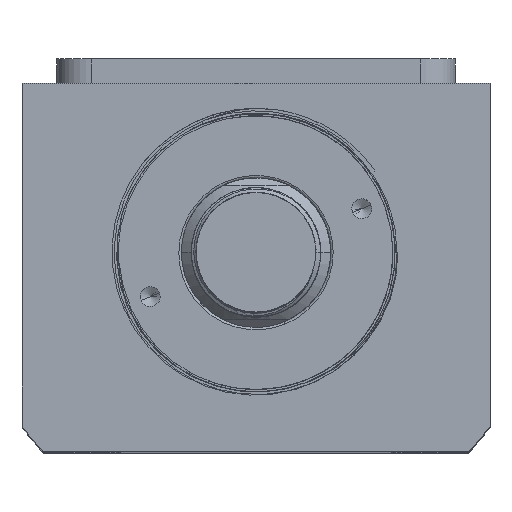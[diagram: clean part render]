
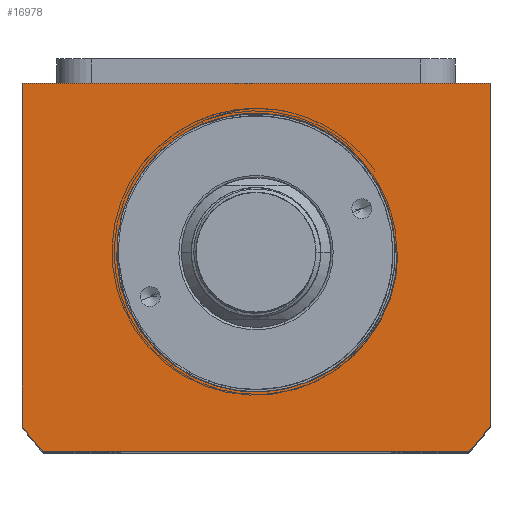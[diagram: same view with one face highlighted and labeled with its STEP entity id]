
A CAD part, top view. The second image highlights one B-rep face of the part: STEP entity #16978.
In plain terms, the highlighted planar face has unit normal (0, 0, 1).
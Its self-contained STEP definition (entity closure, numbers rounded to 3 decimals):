
#27 = CARTESIAN_POINT ( 'NONE',  ( 10.89, -25.816, 77.5 ) ) ;
#166 = CARTESIAN_POINT ( 'NONE',  ( 27.555, -6.99, 77.5 ) ) ;
#598 = VERTEX_POINT ( 'NONE', #17794 ) ;
#808 = AXIS2_PLACEMENT_3D ( 'NONE', #5891, #15069, #10422 ) ;
#820 = EDGE_CURVE ( 'NONE', #5608, #13939, #15677, .T. ) ;
#924 = ORIENTED_EDGE ( 'NONE', *, *, #4125, .T. ) ;
#1374 = ORIENTED_EDGE ( 'NONE', *, *, #2809, .T. ) ;
#1446 = CARTESIAN_POINT ( 'NONE',  ( 22.571, -17.007, 77.5 ) ) ;
#1514 = CARTESIAN_POINT ( 'NONE',  ( 28.233, -3.538, 77.5 ) ) ;
#1668 = CARTESIAN_POINT ( 'NONE',  ( 28.495, 0., 77.5 ) ) ;
#1721 = CARTESIAN_POINT ( 'NONE',  ( 19.714, -20.129, 77.5 ) ) ;
#2193 = VERTEX_POINT ( 'NONE', #4625 ) ;
#2482 = DIRECTION ( 'NONE',  ( 1., 0., 0. ) ) ;
#2809 = EDGE_CURVE ( 'NONE', #5593, #13815, #13224, .T. ) ;
#2919 = DIRECTION ( 'NONE',  ( 0., 0., 1. ) ) ;
#2965 = CARTESIAN_POINT ( 'NONE',  ( 12.831, -24.945, 77.5 ) ) ;
#3112 = CARTESIAN_POINT ( 'NONE',  ( 0., 0., 77.5 ) ) ;
#3664 = DIRECTION ( 'NONE',  ( 1., 0., 0. ) ) ;
#3711 = ORIENTED_EDGE ( 'NONE', *, *, #12305, .T. ) ;
#3728 = VECTOR ( 'NONE', #19163, 1000. ) ;
#3978 = ORIENTED_EDGE ( 'NONE', *, *, #4486, .F. ) ;
#4125 = EDGE_CURVE ( 'NONE', #2193, #5608, #14436, .T. ) ;
#4133 = EDGE_CURVE ( 'NONE', #9978, #598, #8101, .T. ) ;
#4183 = LINE ( 'NONE', #10299, #3728 ) ;
#4203 = ORIENTED_EDGE ( 'NONE', *, *, #16337, .T. ) ;
#4486 = EDGE_CURVE ( 'NONE', #5593, #11843, #10938, .T. ) ;
#4625 = CARTESIAN_POINT ( 'NONE',  ( 42.688, -40., 77.5 ) ) ;
#4689 = CARTESIAN_POINT ( 'NONE',  ( 28.323, -2.832, 77.5 ) ) ;
#4766 = DIRECTION ( 'NONE',  ( 1., 0., 0. ) ) ;
#4819 = CARTESIAN_POINT ( 'NONE',  ( 10.232, -26.064, 77.5 ) ) ;
#5156 = VERTEX_POINT ( 'NONE', #17149 ) ;
#5358 = CIRCLE ( 'NONE', #18765, 58.5 ) ;
#5428 = DIRECTION ( 'NONE',  ( 0., 0., -1. ) ) ;
#5580 = CARTESIAN_POINT ( 'NONE',  ( 42.688, -40., 77.5 ) ) ;
#5593 = VERTEX_POINT ( 'NONE', #1668 ) ;
#5608 = VERTEX_POINT ( 'NONE', #8896 ) ;
#5891 = CARTESIAN_POINT ( 'NONE',  ( 0., 0., 77.5 ) ) ;
#6208 = CARTESIAN_POINT ( 'NONE',  ( 24.178, -14.712, 77.5 ) ) ;
#6272 = CARTESIAN_POINT ( 'NONE',  ( 28.485, -0.71, 77.5 ) ) ;
#6688 = CARTESIAN_POINT ( 'NONE',  ( 47., 34., 77.5 ) ) ;
#6698 = VECTOR ( 'NONE', #14872, 1000. ) ;
#6796 = EDGE_CURVE ( 'NONE', #13815, #11843, #15605, .T. ) ;
#7132 = EDGE_CURVE ( 'NONE', #5156, #2193, #8970, .T. ) ;
#7236 = CARTESIAN_POINT ( 'NONE',  ( -47., 34., 77.5 ) ) ;
#7304 = AXIS2_PLACEMENT_3D ( 'NONE', #14683, #2919, #16470 ) ;
#7503 = CARTESIAN_POINT ( 'NONE',  ( 15.3, -23.593, 77.5 ) ) ;
#7560 = ORIENTED_EDGE ( 'NONE', *, *, #6796, .T. ) ;
#7702 = CARTESIAN_POINT ( 'NONE',  ( 16.467, -22.819, 77.5 ) ) ;
#7943 = CARTESIAN_POINT ( 'NONE',  ( 28., 0., 77.5 ) ) ;
#8101 = LINE ( 'NONE', #17962, #6698 ) ;
#8622 = FACE_OUTER_BOUND ( 'NONE', #15480, .T. ) ;
#8896 = CARTESIAN_POINT ( 'NONE',  ( 47., -34.832, 77.5 ) ) ;
#8970 = LINE ( 'NONE', #5580, #13667 ) ;
#9018 = CARTESIAN_POINT ( 'NONE',  ( 26.163, -10.961, 77.5 ) ) ;
#9224 = CARTESIAN_POINT ( 'NONE',  ( 20.224, -19.631, 77.5 ) ) ;
#9344 = FACE_BOUND ( 'NONE', #14323, .T. ) ;
#9528 = VECTOR ( 'NONE', #16567, 1000. ) ;
#9978 = VERTEX_POINT ( 'NONE', #7236 ) ;
#10299 = CARTESIAN_POINT ( 'NONE',  ( -47., 34., 77.5 ) ) ;
#10385 = ORIENTED_EDGE ( 'NONE', *, *, #4133, .T. ) ;
#10422 = DIRECTION ( 'NONE',  ( 1., 0., 0. ) ) ;
#10734 = CARTESIAN_POINT ( 'NONE',  ( 18.667, -21.077, 77.5 ) ) ;
#10938 = LINE ( 'NONE', #15183, #9528 ) ;
#11430 = ORIENTED_EDGE ( 'NONE', *, *, #7132, .T. ) ;
#11843 = VERTEX_POINT ( 'NONE', #7943 ) ;
#11963 = CARTESIAN_POINT ( 'NONE',  ( 13.459, -24.624, 77.5 ) ) ;
#12305 = EDGE_CURVE ( 'NONE', #598, #5156, #5358, .T. ) ;
#13099 = ORIENTED_EDGE ( 'NONE', *, *, #820, .T. ) ;
#13224 = B_SPLINE_CURVE_WITH_KNOTS ( 'NONE', 3,
 ( #15268, #6272, #16638, #4689, #1514, #14986, #166, #18270, #9018, #15193, #6208, #1446, #16708, #9224, #1721, #10734, #16511, #7702, #7503, #11963, #2965, #13484, #27, #4819 ),
 .UNSPECIFIED., .F., .F.,
 ( 4, 2, 2, 2, 2, 2, 2, 2, 2, 2, 2, 4 ),
 ( 0., 0.002, 0.004, 0.009, 0.013, 0.017, 0.021, 0.023, 0.026, 0.03, 0.032, 0.034 ),
 .UNSPECIFIED. ) ;
#13306 = PLANE ( 'NONE',  #808 ) ;
#13484 = CARTESIAN_POINT ( 'NONE',  ( 11.542, -25.544, 77.5 ) ) ;
#13667 = VECTOR ( 'NONE', #2482, 1000. ) ;
#13815 = VERTEX_POINT ( 'NONE', #15573 ) ;
#13855 = DIRECTION ( 'NONE',  ( 0., 1., 0. ) ) ;
#13939 = VERTEX_POINT ( 'NONE', #6688 ) ;
#14323 = EDGE_LOOP ( 'NONE', ( #3978, #1374, #7560 ) ) ;
#14436 = CIRCLE ( 'NONE', #7304, 58.5 ) ;
#14683 = CARTESIAN_POINT ( 'NONE',  ( 0., 0., 77.5 ) ) ;
#14872 = DIRECTION ( 'NONE',  ( 0., -1., 0. ) ) ;
#14986 = CARTESIAN_POINT ( 'NONE',  ( 27.887, -5.628, 77.5 ) ) ;
#15069 = DIRECTION ( 'NONE',  ( 0., 0., 1. ) ) ;
#15169 = VECTOR ( 'NONE', #13855, 1000. ) ;
#15183 = CARTESIAN_POINT ( 'NONE',  ( 0., 0., 77.5 ) ) ;
#15193 = CARTESIAN_POINT ( 'NONE',  ( 24.898, -13.504, 77.5 ) ) ;
#15268 = CARTESIAN_POINT ( 'NONE',  ( 28.495, 0., 77.5 ) ) ;
#15452 = CARTESIAN_POINT ( 'NONE',  ( 47., 34., 77.5 ) ) ;
#15480 = EDGE_LOOP ( 'NONE', ( #4203, #10385, #3711, #11430, #924, #13099 ) ) ;
#15573 = CARTESIAN_POINT ( 'NONE',  ( 10.232, -26.064, 77.5 ) ) ;
#15605 = CIRCLE ( 'NONE', #17422, 28. ) ;
#15677 = LINE ( 'NONE', #15452, #15169 ) ;
#15819 = CARTESIAN_POINT ( 'NONE',  ( 0., 0., 77.5 ) ) ;
#16337 = EDGE_CURVE ( 'NONE', #13939, #9978, #4183, .T. ) ;
#16470 = DIRECTION ( 'NONE',  ( 1., 0., 0. ) ) ;
#16511 = CARTESIAN_POINT ( 'NONE',  ( 18.129, -21.529, 77.5 ) ) ;
#16567 = DIRECTION ( 'NONE',  ( -1., 0., 0. ) ) ;
#16638 = CARTESIAN_POINT ( 'NONE',  ( 28.449, -1.419, 77.5 ) ) ;
#16708 = CARTESIAN_POINT ( 'NONE',  ( 21.684, -18.094, 77.5 ) ) ;
#16721 = DIRECTION ( 'NONE',  ( 0., 0., 1. ) ) ;
#16978 = ADVANCED_FACE ( 'NONE', ( #9344, #8622 ), #13306, .T. ) ;
#17149 = CARTESIAN_POINT ( 'NONE',  ( -42.688, -40., 77.5 ) ) ;
#17422 = AXIS2_PLACEMENT_3D ( 'NONE', #15819, #5428, #3664 ) ;
#17794 = CARTESIAN_POINT ( 'NONE',  ( -47., -34.832, 77.5 ) ) ;
#17962 = CARTESIAN_POINT ( 'NONE',  ( -47., -34.832, 77.5 ) ) ;
#18270 = CARTESIAN_POINT ( 'NONE',  ( 26.694, -9.657, 77.5 ) ) ;
#18765 = AXIS2_PLACEMENT_3D ( 'NONE', #3112, #16721, #4766 ) ;
#19163 = DIRECTION ( 'NONE',  ( -1., 0., 0. ) ) ;
